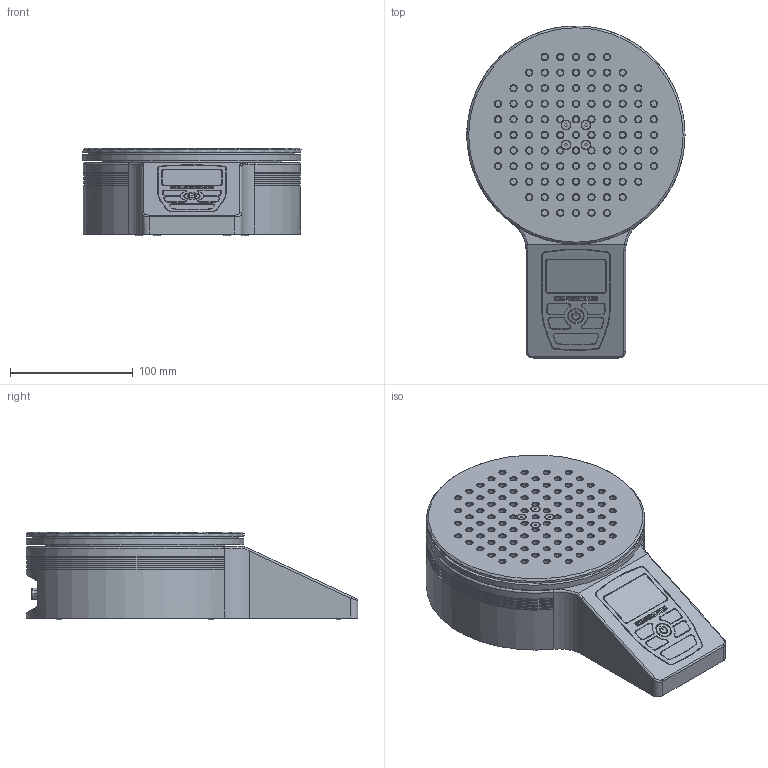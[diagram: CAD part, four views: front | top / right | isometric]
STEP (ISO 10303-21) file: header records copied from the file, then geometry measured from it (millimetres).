
FILE_DESCRIPTION((''),'2;1');
FILE_NAME('F:\CAD files\Itr\3D MARKETING MODELS\TORQUE GAUGES\TT05\TT05.stp','2017-04-05T16:09:32',('mlampen'),(''),'Autodesk Inventor 2010','Autodesk Inventor 2010','');
FILE_SCHEMA(('AUTOMOTIVE_DESIGN { 1 0 10303 214 1 1 1 1 }'));
Length unit declared in the file: inch
Products named in the file (1): Part2
Bounding box: 177.66 x 270.41 x 71.58 mm (x, y, z)
Volume: 1985771.5 mm3; surface area: 149454.9 mm2
Topology: 1 solids, 4 shells, 1064 faces, 2430 edges, 1580 vertices
Faces by surface type: plane 516, cylinder 283, cone 150, bspline 98, torus 11, sphere 6
Full cylindrical faces by diameter (mm): 1.016 x10, 2.5 x1, 2.845 x5, 3.175 x2, 3.454 x1, 3.505 x4, 4.768 x1, 4.826 x74, 5.715 x1, 6.223 x4, 6.299 x1, 8.636 x6, 10.16 x5, 12.065 x1, 13.335 x1, 147.32 x1, 167.792 x1, 177.8 x2
Entity records: 28276 total; most frequent: CARTESIAN_POINT 6012, DIRECTION 4724, ORIENTED_EDGE 3988, EDGE_CURVE 1994, AXIS2_PLACEMENT_3D 1817, EDGE_LOOP 1555, VERTEX_POINT 1425, VECTOR 1090
